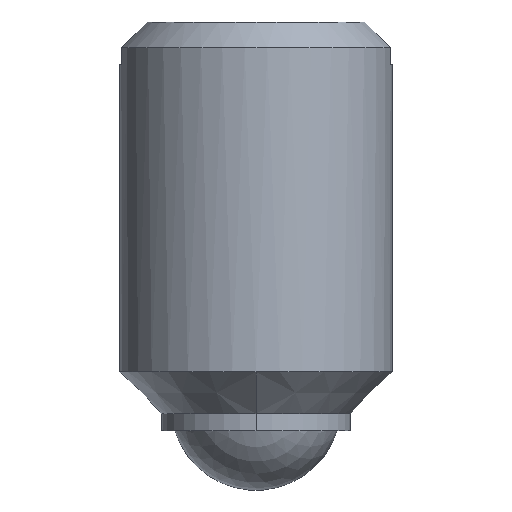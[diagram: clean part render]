
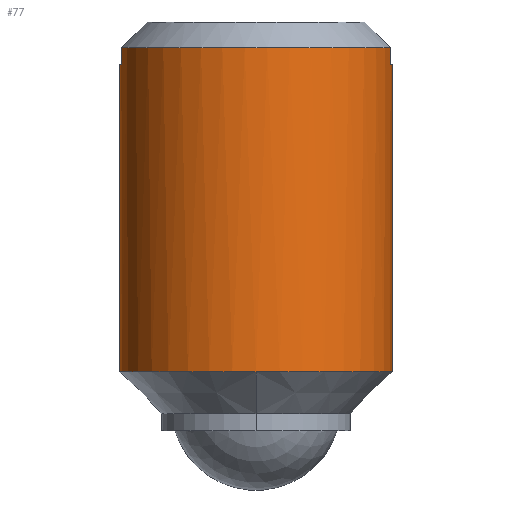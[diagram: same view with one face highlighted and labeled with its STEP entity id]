
A CAD part, front view. The second image highlights one B-rep face of the part: STEP entity #77.
In plain terms, the highlighted cylindrical face has radius 8 mm (diameter 16 mm), a partial arc.
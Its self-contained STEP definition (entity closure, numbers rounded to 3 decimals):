
#7 = LINE ( 'NONE', #92, #119 ) ;
#11 = EDGE_CURVE ( 'NONE', #38, #221, #348, .T. ) ;
#13 = EDGE_LOOP ( 'NONE', ( #578, #158, #461, #455, #471, #312, #407, #28, #400 ) ) ;
#15 = CARTESIAN_POINT ( 'NONE',  ( -7.902, -1.25, 25. ) ) ;
#19 = AXIS2_PLACEMENT_3D ( 'NONE', #358, #464, #412 ) ;
#28 = ORIENTED_EDGE ( 'NONE', *, *, #69, .F. ) ;
#38 = VERTEX_POINT ( 'NONE', #74 ) ;
#53 = CARTESIAN_POINT ( 'NONE',  ( -8., 0., 6.95 ) ) ;
#59 = VERTEX_POINT ( 'NONE', #53 ) ;
#61 = DIRECTION ( 'NONE',  ( 0., 0., -1. ) ) ;
#69 = EDGE_CURVE ( 'NONE', #221, #59, #370, .T. ) ;
#74 = CARTESIAN_POINT ( 'NONE',  ( 8., 0., 6.95 ) ) ;
#75 = CARTESIAN_POINT ( 'NONE',  ( 0., -8., 6.95 ) ) ;
#77 = ADVANCED_FACE ( 'NONE', ( #132 ), #269, .T. ) ;
#79 = AXIS2_PLACEMENT_3D ( 'NONE', #173, #351, #540 ) ;
#86 = DIRECTION ( 'NONE',  ( 0., 0., -1. ) ) ;
#87 = EDGE_CURVE ( 'NONE', #375, #38, #399, .T. ) ;
#92 = CARTESIAN_POINT ( 'NONE',  ( -8., 0., -2.5 ) ) ;
#96 = EDGE_CURVE ( 'NONE', #414, #59, #7, .T. ) ;
#104 = DIRECTION ( 'NONE',  ( 0., 0., 1. ) ) ;
#119 = VECTOR ( 'NONE', #546, 1000. ) ;
#129 = CARTESIAN_POINT ( 'NONE',  ( 0., 0., 26. ) ) ;
#130 = CARTESIAN_POINT ( 'NONE',  ( 8., 0., -2.5 ) ) ;
#132 = FACE_OUTER_BOUND ( 'NONE', #13, .T. ) ;
#134 = AXIS2_PLACEMENT_3D ( 'NONE', #176, #581, #403 ) ;
#141 = EDGE_CURVE ( 'NONE', #414, #567, #200, .T. ) ;
#142 = CARTESIAN_POINT ( 'NONE',  ( 0., 0., 25. ) ) ;
#152 = AXIS2_PLACEMENT_3D ( 'NONE', #129, #86, #485 ) ;
#158 = ORIENTED_EDGE ( 'NONE', *, *, #203, .F. ) ;
#172 = DIRECTION ( 'NONE',  ( 0., 1., 0. ) ) ;
#173 = CARTESIAN_POINT ( 'NONE',  ( 0., 0., 6.95 ) ) ;
#176 = CARTESIAN_POINT ( 'NONE',  ( 0., 0., 25. ) ) ;
#179 = AXIS2_PLACEMENT_3D ( 'NONE', #142, #104, #274 ) ;
#200 = CIRCLE ( 'NONE', #134, 8. ) ;
#203 = EDGE_CURVE ( 'NONE', #426, #375, #298, .T. ) ;
#208 = DIRECTION ( 'NONE',  ( 0., 0., 1. ) ) ;
#221 = VERTEX_POINT ( 'NONE', #75 ) ;
#268 = VERTEX_POINT ( 'NONE', #290 ) ;
#269 = CYLINDRICAL_SURFACE ( 'NONE', #19, 8. ) ;
#274 = DIRECTION ( 'NONE',  ( 1., 0., 0. ) ) ;
#283 = VECTOR ( 'NONE', #438, 1000. ) ;
#290 = CARTESIAN_POINT ( 'NONE',  ( -7.902, -1.25, 26. ) ) ;
#298 = CIRCLE ( 'NONE', #179, 8. ) ;
#306 = CARTESIAN_POINT ( 'NONE',  ( -7.902, -1.25, 25. ) ) ;
#312 = ORIENTED_EDGE ( 'NONE', *, *, #141, .F. ) ;
#348 = CIRCLE ( 'NONE', #543, 8. ) ;
#351 = DIRECTION ( 'NONE',  ( 0., 0., -1. ) ) ;
#353 = LINE ( 'NONE', #306, #283 ) ;
#357 = CIRCLE ( 'NONE', #152, 8. ) ;
#358 = CARTESIAN_POINT ( 'NONE',  ( 0., 0., -2.5 ) ) ;
#362 = EDGE_CURVE ( 'NONE', #426, #520, #441, .T. ) ;
#370 = CIRCLE ( 'NONE', #79, 8. ) ;
#371 = VECTOR ( 'NONE', #208, 1000. ) ;
#375 = VERTEX_POINT ( 'NONE', #532 ) ;
#393 = CARTESIAN_POINT ( 'NONE',  ( -8., 0., 25. ) ) ;
#394 = DIRECTION ( 'NONE',  ( 0., 0., -1. ) ) ;
#399 = LINE ( 'NONE', #130, #408 ) ;
#400 = ORIENTED_EDGE ( 'NONE', *, *, #11, .F. ) ;
#403 = DIRECTION ( 'NONE',  ( 1., 0., 0. ) ) ;
#404 = CARTESIAN_POINT ( 'NONE',  ( 7.902, -1.25, 26. ) ) ;
#407 = ORIENTED_EDGE ( 'NONE', *, *, #96, .T. ) ;
#408 = VECTOR ( 'NONE', #61, 1000. ) ;
#412 = DIRECTION ( 'NONE',  ( -1., 0., 0. ) ) ;
#414 = VERTEX_POINT ( 'NONE', #393 ) ;
#426 = VERTEX_POINT ( 'NONE', #583 ) ;
#438 = DIRECTION ( 'NONE',  ( 0., 0., 1. ) ) ;
#441 = LINE ( 'NONE', #491, #371 ) ;
#455 = ORIENTED_EDGE ( 'NONE', *, *, #529, .T. ) ;
#461 = ORIENTED_EDGE ( 'NONE', *, *, #362, .T. ) ;
#464 = DIRECTION ( 'NONE',  ( 0., 0., -1. ) ) ;
#471 = ORIENTED_EDGE ( 'NONE', *, *, #480, .F. ) ;
#480 = EDGE_CURVE ( 'NONE', #567, #268, #353, .T. ) ;
#484 = CARTESIAN_POINT ( 'NONE',  ( 0., 0., 6.95 ) ) ;
#485 = DIRECTION ( 'NONE',  ( 0., 1., 0. ) ) ;
#491 = CARTESIAN_POINT ( 'NONE',  ( 7.902, -1.25, 25. ) ) ;
#520 = VERTEX_POINT ( 'NONE', #404 ) ;
#529 = EDGE_CURVE ( 'NONE', #520, #268, #357, .T. ) ;
#532 = CARTESIAN_POINT ( 'NONE',  ( 8., 0., 25. ) ) ;
#540 = DIRECTION ( 'NONE',  ( 0., 1., 0. ) ) ;
#543 = AXIS2_PLACEMENT_3D ( 'NONE', #484, #394, #172 ) ;
#546 = DIRECTION ( 'NONE',  ( 0., 0., -1. ) ) ;
#567 = VERTEX_POINT ( 'NONE', #15 ) ;
#578 = ORIENTED_EDGE ( 'NONE', *, *, #87, .F. ) ;
#581 = DIRECTION ( 'NONE',  ( 0., 0., 1. ) ) ;
#583 = CARTESIAN_POINT ( 'NONE',  ( 7.902, -1.25, 25. ) ) ;
